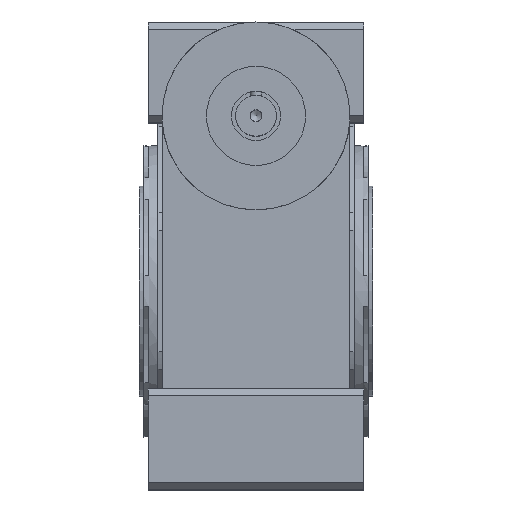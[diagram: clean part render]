
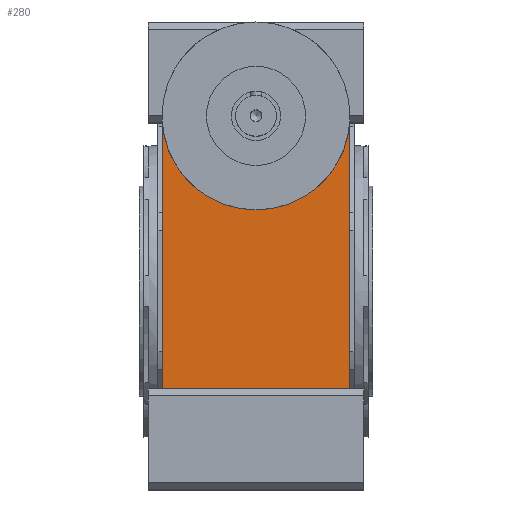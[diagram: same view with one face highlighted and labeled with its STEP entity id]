
A CAD part, top view. The second image highlights one B-rep face of the part: STEP entity #280.
In plain terms, the highlighted planar face has unit normal (0, 0, 1).
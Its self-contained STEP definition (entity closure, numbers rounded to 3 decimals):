
#280 = ADVANCED_FACE( '', ( #793 ), #794, .F. );
#793 = FACE_OUTER_BOUND( '', #1625, .T. );
#794 = PLANE( '', #1626 );
#1625 = EDGE_LOOP( '', ( #2489, #2490, #2491, #2492, #2493, #2494 ) );
#1626 = AXIS2_PLACEMENT_3D( '', #2495, #2496, #2497 );
#2489 = ORIENTED_EDGE( '', *, *, #4603, .T. );
#2490 = ORIENTED_EDGE( '', *, *, #4604, .F. );
#2491 = ORIENTED_EDGE( '', *, *, #4605, .T. );
#2492 = ORIENTED_EDGE( '', *, *, #4606, .F. );
#2493 = ORIENTED_EDGE( '', *, *, #4607, .T. );
#2494 = ORIENTED_EDGE( '', *, *, #4608, .F. );
#2495 = CARTESIAN_POINT( '', ( 0., -6., -8. ) );
#2496 = DIRECTION( '', ( 0., 0., -1. ) );
#2497 = DIRECTION( '', ( 0., -1., 0. ) );
#4603 = EDGE_CURVE( '', #5465, #5466, #5467, .T. );
#4604 = EDGE_CURVE( '', #5468, #5466, #5469, .T. );
#4605 = EDGE_CURVE( '', #5468, #5470, #5471, .T. );
#4606 = EDGE_CURVE( '', #5472, #5470, #5473, .T. );
#4607 = EDGE_CURVE( '', #5472, #5474, #5475, .T. );
#4608 = EDGE_CURVE( '', #5465, #5474, #5476, .T. );
#5465 = VERTEX_POINT( '', #6729 );
#5466 = VERTEX_POINT( '', #6730 );
#5467 = CIRCLE( '', #6731, 80.5 );
#5468 = VERTEX_POINT( '', #6732 );
#5469 = LINE( '', #6733, #6734 );
#5470 = VERTEX_POINT( '', #6735 );
#5471 = LINE( '', #6736, #6737 );
#5472 = VERTEX_POINT( '', #6738 );
#5473 = LINE( '', #6739, #6740 );
#5474 = VERTEX_POINT( '', #6741 );
#5475 = LINE( '', #6742, #6743 );
#5476 = LINE( '', #6744, #6745 );
#6729 = CARTESIAN_POINT( '', ( 80.276, -6., -8. ) );
#6730 = CARTESIAN_POINT( '', ( -80.276, -6., -8. ) );
#6731 = AXIS2_PLACEMENT_3D( '', #8385, #8386, #8387 );
#6732 = CARTESIAN_POINT( '', ( -80.5, -6., -8. ) );
#6733 = CARTESIAN_POINT( '', ( -92.5, -6., -8. ) );
#6734 = VECTOR( '', #8388, 1000. );
#6735 = CARTESIAN_POINT( '', ( -80.5, -234., -8. ) );
#6736 = CARTESIAN_POINT( '', ( -80.5, -6., -8. ) );
#6737 = VECTOR( '', #8389, 1000. );
#6738 = CARTESIAN_POINT( '', ( 80.5, -234., -8. ) );
#6739 = CARTESIAN_POINT( '', ( 0., -234., -8. ) );
#6740 = VECTOR( '', #8390, 1000. );
#6741 = CARTESIAN_POINT( '', ( 80.5, -6., -8. ) );
#6742 = CARTESIAN_POINT( '', ( 80.5, -6., -8. ) );
#6743 = VECTOR( '', #8391, 1000. );
#6744 = CARTESIAN_POINT( '', ( -92.5, -6., -8. ) );
#6745 = VECTOR( '', #8392, 1000. );
#8385 = CARTESIAN_POINT( '', ( 0., 0., -8. ) );
#8386 = DIRECTION( '', ( 0., 0., -1. ) );
#8387 = DIRECTION( '', ( 0., 1., 0. ) );
#8388 = DIRECTION( '', ( 1., 0., 0. ) );
#8389 = DIRECTION( '', ( 0., -1., 0. ) );
#8390 = DIRECTION( '', ( -1., 0., 0. ) );
#8391 = DIRECTION( '', ( 0., 1., 0. ) );
#8392 = DIRECTION( '', ( 1., 0., 0. ) );
